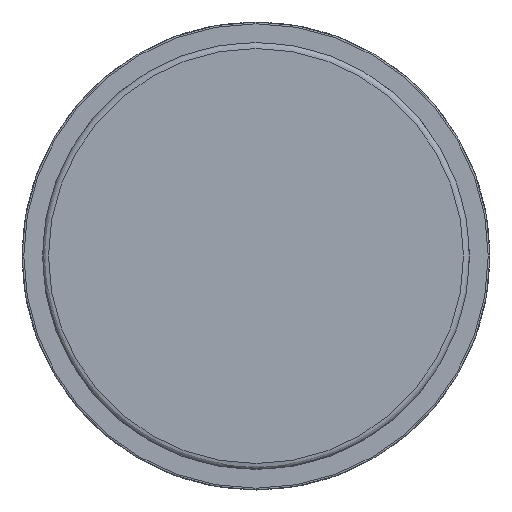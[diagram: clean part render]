
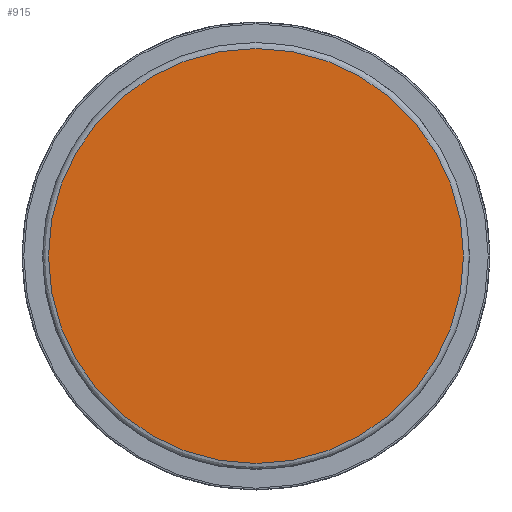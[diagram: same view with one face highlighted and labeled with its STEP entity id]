
A CAD part, left-side view. The second image highlights one B-rep face of the part: STEP entity #915.
In plain terms, the highlighted planar face has unit normal (-1, 0, 0).
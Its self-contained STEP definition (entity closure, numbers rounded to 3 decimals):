
#890=CARTESIAN_POINT('',(-528.136,-401.109,-87.));
#891=DIRECTION('',(-1.0,0.0,0.0));
#892=DIRECTION('',(0.0,-1.0,0.0));
#893=AXIS2_PLACEMENT_3D('',#890,#891,#892);
#894=PLANE('',#893);
#895=CARTESIAN_POINT('',(-528.136,-558.609,0.0));
#896=VERTEX_POINT('',#895);
#897=CARTESIAN_POINT('',(-528.136,-417.609,0.0));
#898=VERTEX_POINT('',#897);
#899=CARTESIAN_POINT('',(-528.136,-488.109,0.0));
#900=DIRECTION('',(-1.0,0.0,0.0));
#901=DIRECTION('',(0.0,-1.0,0.0));
#902=AXIS2_PLACEMENT_3D('',#899,#900,#901);
#903=CIRCLE('',#902,70.5);
#904=EDGE_CURVE('',#896,#898,#903,.T.);
#905=ORIENTED_EDGE('',*,*,#904,.T.);
#906=CARTESIAN_POINT('',(-528.136,-488.109,0.0));
#907=DIRECTION('',(-1.0,0.0,0.0));
#908=DIRECTION('',(0.0,-1.0,0.0));
#909=AXIS2_PLACEMENT_3D('',#906,#907,#908);
#910=CIRCLE('',#909,70.5);
#911=EDGE_CURVE('',#898,#896,#910,.T.);
#912=ORIENTED_EDGE('',*,*,#911,.T.);
#913=EDGE_LOOP('',(#905,#912));
#914=FACE_OUTER_BOUND('',#913,.T.);
#915=ADVANCED_FACE('',(#914),#894,.T.);
